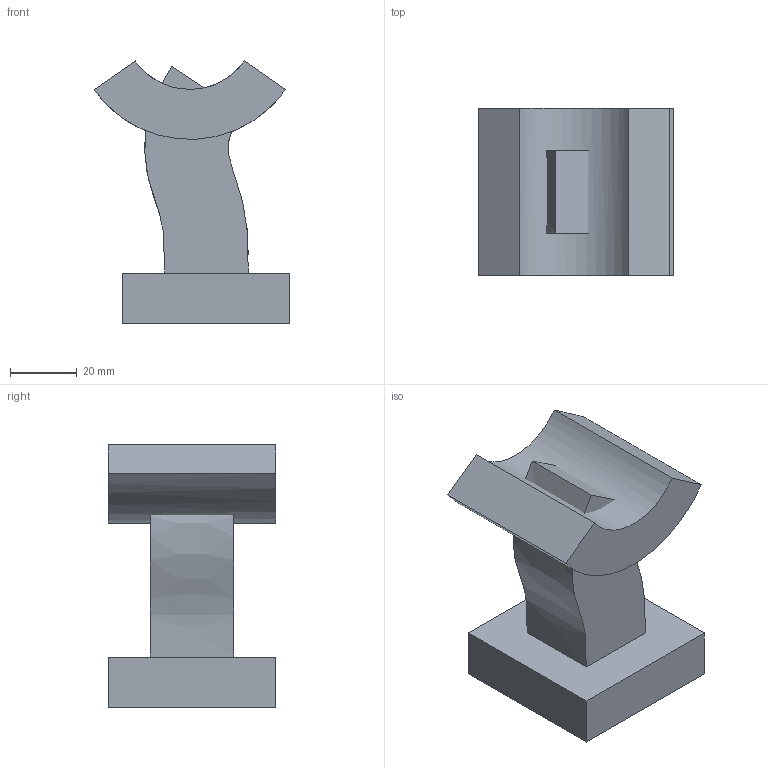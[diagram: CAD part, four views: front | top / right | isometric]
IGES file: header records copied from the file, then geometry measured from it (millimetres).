
Global section: file name: G_Ex_10_4; native system: AutoCAD 2016 - Español (Spanish),; preprocessor: Autodesk Translation Framework DWG producer (atf_dwg_producer); organization: unknown; date: 20200410.170305; units: millimetre
Bounding box: 58.67 x 50 x 78.53 mm (x, y, z)
Volume: 112743.5 mm3; surface area: 23318.4 mm2
Topology: 3 solids, 3 shells, 18 faces, 36 edges, 24 vertices
Faces by surface type: bspline 18
